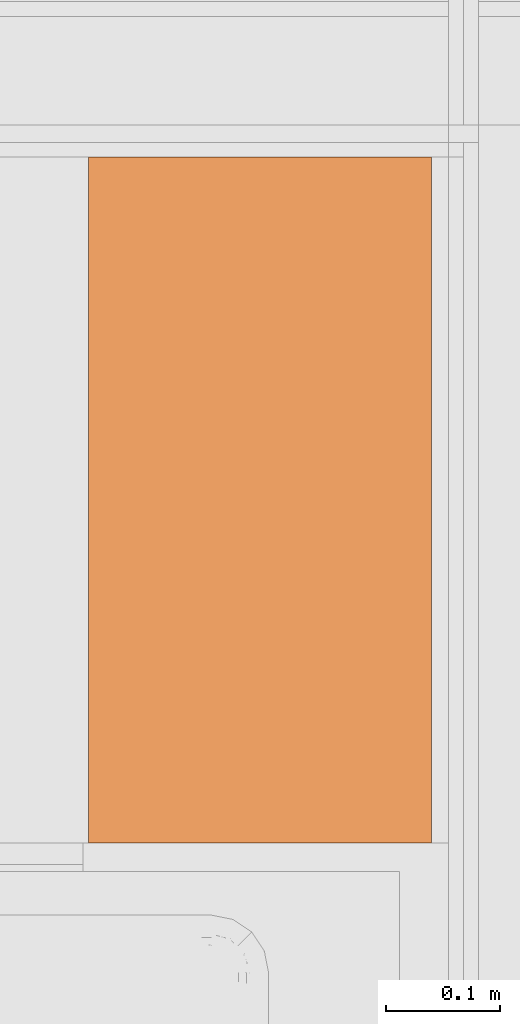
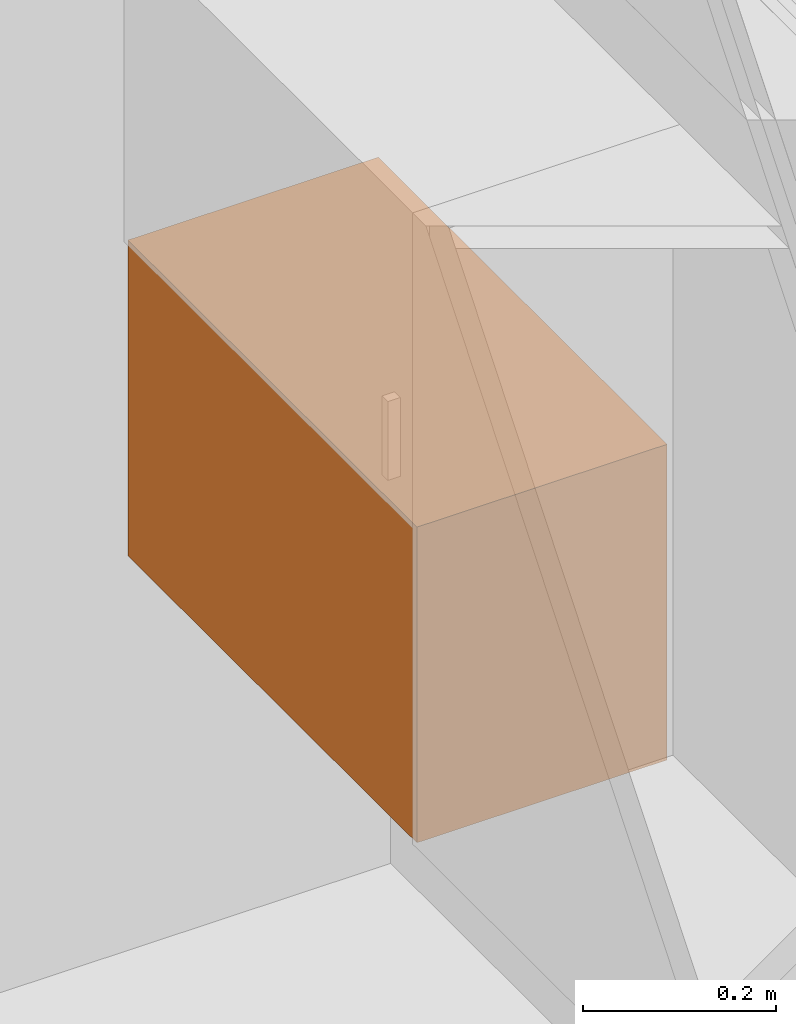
# One storey, part 12 of 12: 1 proxy.
"""IFC4 building model written with IfcOpenShell, lengths in millimetres."""

from ifc_helpers import new_model, entity, si_unit, converted_unit, direction, frame, origin, place, context, subcontext, project, spatial, indexed_curve, outline, extrude, source, transform, mapped, material, type_object, type_shapes, element, save


model = new_model("IFC4")

# Units and contexts
model_context = context("Model", 3, precision=0.01, world=origin(), true_north=direction((0.0, 1.0)))
body_context = subcontext(model_context, "Body", "Model", "MODEL_VIEW")
ifc_project = project(units=[si_unit("LENGTHUNIT", "METRE", prefix="MILLI"), si_unit("AREAUNIT", "SQUARE_METRE"), si_unit("VOLUMEUNIT", "CUBIC_METRE"), converted_unit("PLANEANGLEUNIT", "DEGREE", entity("IfcPlaneAngleMeasure", 0.017453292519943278), si_unit("PLANEANGLEUNIT", "RADIAN"), dimensions=[0, 0, 0, 0, 0, 0, 0])], contexts=[model_context])

# Site, building, storey, space
site_placement = place(None, origin())
site = spatial("IfcSite", under=ifc_project, at=site_placement, Name="Tomtens navn", CompositionType="ELEMENT")
building_placement = place(site_placement, origin())
building = spatial("IfcBuilding", under=site, at=building_placement, Name="Byggets navn", CompositionType="ELEMENT")
storey_placement = place(building_placement, frame((0.0, 0.0, 3500.0)))
storey = spatial("IfcBuildingStorey", under=building, at=storey_placement, Name="Level 02", CompositionType="ELEMENT", Elevation=3499.999999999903)
space_placement = place(storey_placement, origin())
space = spatial("IfcSpace", under=storey, at=space_placement, Name="205", CompositionType="ELEMENT", PredefinedType="NOTDEFINED")

# Proxy
ifc_material = material(Name="<Unnamed>")
building_element_proxy_type = type_object("IfcBuildingElementProxyType", Name="Microwave:600 x 400 x 400mm", PredefinedType="NOTDEFINED", material=ifc_material)
shared_shape = source(origin(), body_context, "Body", "SweptSolid", [
    extrude(outline(indexed_curve([(-300.00000000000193, -150.00000000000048), (300.000000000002, -150.00000000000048), (300.000000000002, 150.00000000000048), (-300.00000000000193, 150.00000000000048), (-300.00000000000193, -150.00000000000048)], self_intersect=False)), frame((500.2928773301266, -353.0805058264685, 1400.0), z_axis=(0.0, 0.0, 1.0), x_axis=(-1.0, 0.0, 0.0)), (0.0, 0.0, 1.0), 399.9999999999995),
])
type_shapes(building_element_proxy_type, [shared_shape])
proxy_placement = place(space_placement, frame((63684.43403393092, 14207.759334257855, 0.0), z_axis=(0.0, 0.0, 1.0), x_axis=(0.0, -1.0, 0.0)))
element("IfcBuildingElementProxy", 1, at=proxy_placement, inside=space, type_object=building_element_proxy_type, material=ifc_material, Name="Microwave:600 x 400 x 400mm", PredefinedType="NOTDEFINED", context=body_context, shape_type="MappedRepresentation", body=[
    mapped(shared_shape, transform((0.0, 0.0, 0.0), scale=1.0)),
])

save(model, "model.ifc")
